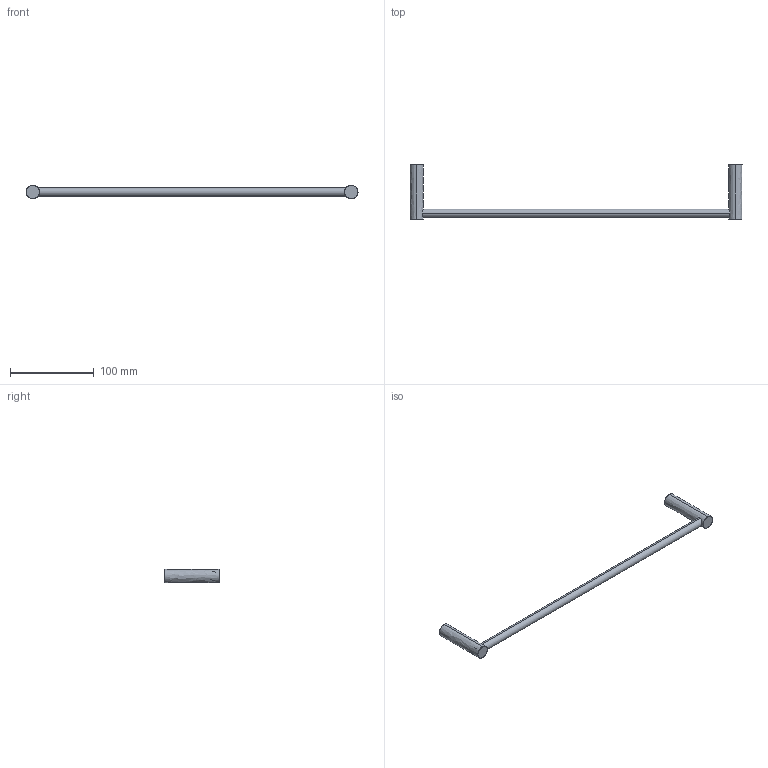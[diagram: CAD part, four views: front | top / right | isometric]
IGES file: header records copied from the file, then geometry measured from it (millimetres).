
Start section: SolidWorks IGES file using analytic representation for surfaces
Global section: file name: G:\Projects\New project\For Marketing\IGS\DXF & IGS\2260264.IGS; native system: SolidWorks 2010; preprocessor: SolidWorks 2010; author: weijuan; date: 151006.140235; units: inch
Bounding box: 395.89 x 65 x 16 mm (x, y, z)
Surface area: 22133.5 mm2 (no closed solid volume)
Topology: 0 solids, 0 shells, 26 faces, 432 edges, 432 vertices
Faces by surface type: revolution 22, bspline 4
